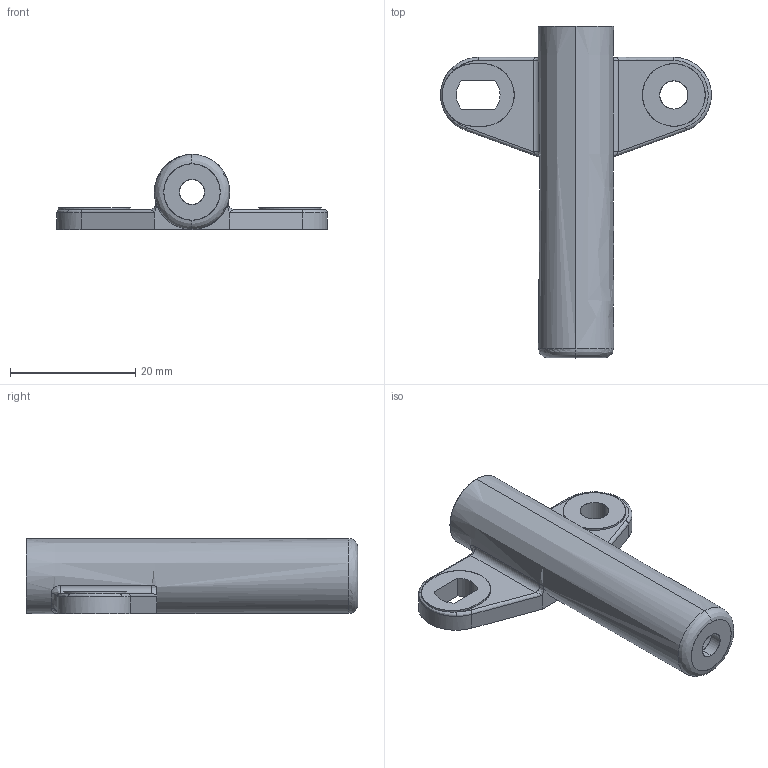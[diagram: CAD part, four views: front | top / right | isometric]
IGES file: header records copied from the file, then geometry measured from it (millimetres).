
Start section: SolidWorks IGES file using analytic representation for surfaces
Bounding box: 43.25 x 53 x 12 mm (x, y, z)
Surface area: 4959.2 mm2 (no closed solid volume)
Topology: 0 solids, 0 shells, 106 faces, 1203 edges, 1189 vertices
Faces by surface type: revolution 59, bspline 47
